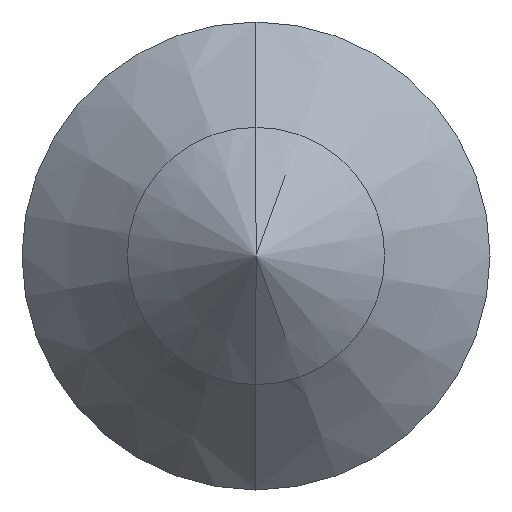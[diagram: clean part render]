
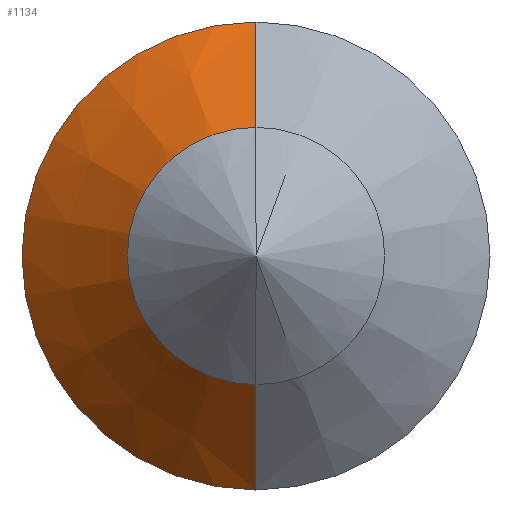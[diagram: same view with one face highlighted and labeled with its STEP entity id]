
A CAD part, left-side view. The second image highlights one B-rep face of the part: STEP entity #1134.
In plain terms, the highlighted conical face has half-angle 45 degrees and reference radius 2 mm.
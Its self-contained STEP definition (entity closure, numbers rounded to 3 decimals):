
#18 = DIRECTION ( 'NONE',  ( 0., 0., 1. ) ) ;
#21 = DIRECTION ( 'NONE',  ( -1., 0., 0. ) ) ;
#26 = CARTESIAN_POINT ( 'NONE',  ( -1.1, 0., 0. ) ) ;
#78 = AXIS2_PLACEMENT_3D ( 'NONE', #26, #21, #18 ) ;
#92 = EDGE_CURVE ( 'NONE', #1293, #1311, #675, .T. ) ;
#112 = VERTEX_POINT ( 'NONE', #678 ) ;
#122 = DIRECTION ( 'NONE',  ( -1., 0., 0. ) ) ;
#138 = EDGE_LOOP ( 'NONE', ( #727, #167, #1395, #1288 ) ) ;
#167 = ORIENTED_EDGE ( 'NONE', *, *, #92, .T. ) ;
#177 = VERTEX_POINT ( 'NONE', #636 ) ;
#188 = CARTESIAN_POINT ( 'NONE',  ( 0., 0., 0. ) ) ;
#522 = CONICAL_SURFACE ( 'NONE', #1416, 2., 0.785 ) ;
#526 = CARTESIAN_POINT ( 'NONE',  ( -1.1, 0., 0.9 ) ) ;
#551 = FACE_OUTER_BOUND ( 'NONE', #138, .T. ) ;
#556 = DIRECTION ( 'NONE',  ( 1., 0., 0. ) ) ;
#570 = CARTESIAN_POINT ( 'NONE',  ( 0., 0., 0. ) ) ;
#615 = DIRECTION ( 'NONE',  ( 0., 0., -1. ) ) ;
#636 = CARTESIAN_POINT ( 'NONE',  ( 0., 0., -2. ) ) ;
#671 = EDGE_CURVE ( 'Arista4', #1293, #112, #1304, .T. ) ;
#672 = VECTOR ( 'NONE', #754, 1000. ) ;
#675 = LINE ( 'NONE', #768, #672 ) ;
#678 = CARTESIAN_POINT ( 'NONE',  ( -1.1, 0., -0.9 ) ) ;
#727 = ORIENTED_EDGE ( 'NONE', *, *, #671, .F. ) ;
#733 = AXIS2_PLACEMENT_3D ( 'NONE', #188, #122, #1082 ) ;
#754 = DIRECTION ( 'NONE',  ( 0.707, 0., 0.707 ) ) ;
#761 = CARTESIAN_POINT ( 'NONE',  ( 0., 0., 2. ) ) ;
#768 = CARTESIAN_POINT ( 'NONE',  ( 0., 0., 2. ) ) ;
#951 = EDGE_CURVE ( 'NONE', #112, #177, #1040, .T. ) ;
#1040 = LINE ( 'NONE', #1253, #1046 ) ;
#1046 = VECTOR ( 'NONE', #1246, 1000. ) ;
#1082 = DIRECTION ( 'NONE',  ( 0., 0., 1. ) ) ;
#1134 = ADVANCED_FACE ( 'NONE', ( #551 ), #522, .T. ) ;
#1246 = DIRECTION ( 'NONE',  ( 0.707, 0., -0.707 ) ) ;
#1253 = CARTESIAN_POINT ( 'NONE',  ( 0., 0., -2. ) ) ;
#1288 = ORIENTED_EDGE ( 'NONE', *, *, #951, .F. ) ;
#1293 = VERTEX_POINT ( 'NONE', #526 ) ;
#1304 = CIRCLE ( 'NONE', #78, 0.9 ) ;
#1311 = VERTEX_POINT ( 'NONE', #761 ) ;
#1357 = EDGE_CURVE ( 'NONE', #1311, #177, #1375, .T. ) ;
#1375 = CIRCLE ( 'NONE', #733, 2. ) ;
#1395 = ORIENTED_EDGE ( 'NONE', *, *, #1357, .T. ) ;
#1416 = AXIS2_PLACEMENT_3D ( 'NONE', #570, #556, #615 ) ;
